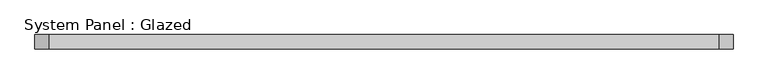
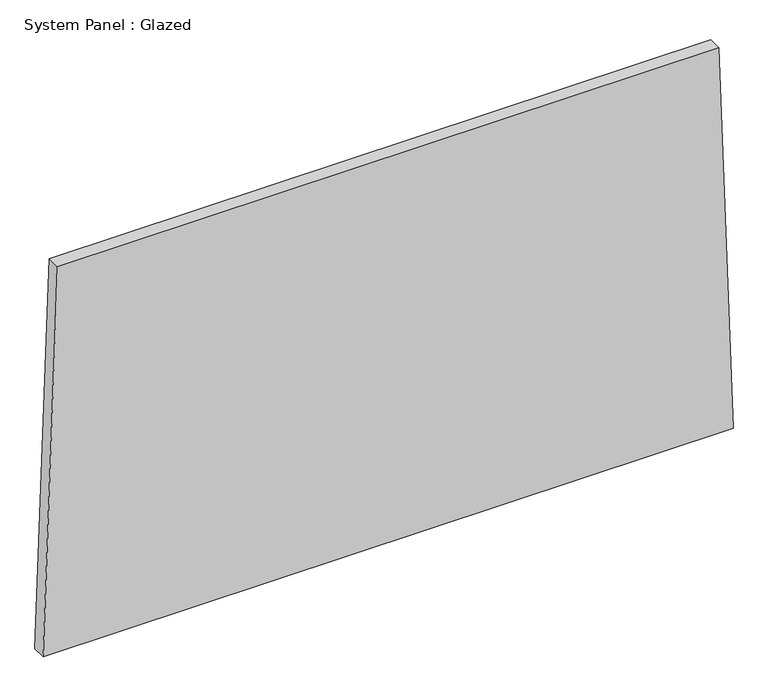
"""IFC4 building model written with IfcOpenShell, lengths in millimetres: plate geometry, System Panel : Glazed."""

from ifc_helpers import new_model, si_unit, frame, origin, place, context, project, spatial, polyline, outline, extrude, source, transform, mapped, element, save


def system_panel_glazed_773f6a53(model_context):
    return source(origin(), model_context, "Body", "SweptSolid", [
        extrude(outline(polyline([(0.0, -623.6769892), (0.0, 623.6769892), (736.1241476, 597.6497443), (736.1241476, -597.6497443), (0.0, -623.6769892)])), frame((0.0, 19.05, 0.0), z_axis=(0.0, 1.0, 0.0), x_axis=(0.0, 0.0, 1.0)), (0.0, 0.0, 1.0), 25.4),
    ])


if __name__ == "__main__":
    model = new_model("IFC4")
    model_context = context("Model", 3, world=origin())
    ifc_project = project(units=[si_unit("LENGTHUNIT", "METRE", prefix="MILLI")], contexts=[model_context])
    site = spatial("IfcSite", under=ifc_project)
    building = spatial("IfcBuilding", under=site)
    placement = place(None, origin())
    system_panel_glazed_shape = system_panel_glazed_773f6a53(model_context)
    element("IfcPlate", 1, ObjectType="System Panel : Glazed", at=placement, inside=building, context=model_context, shape_type="MappedRepresentation", body=[
        mapped(system_panel_glazed_shape, transform((0.0, 0.0, 0.0), x_axis=(1.0, 0.0, 0.0), y_axis=(0.0, 1.0, 0.0), z_axis=(0.0, 0.0, 1.0))),
    ])
    save(model, "model.ifc")
